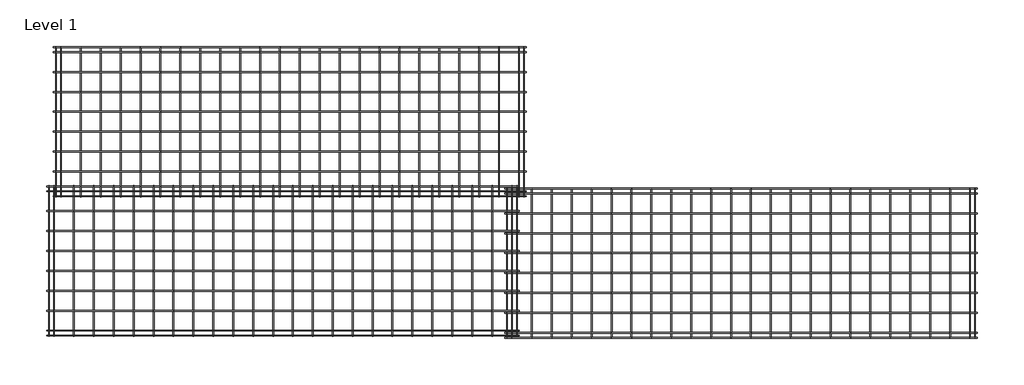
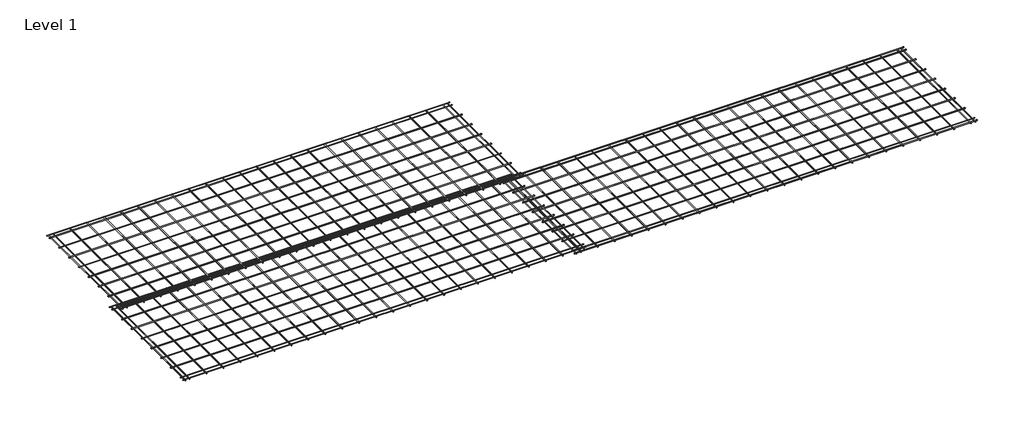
# One storey: 3 proxies.
"""IFC4 building model written with IfcOpenShell, lengths in millimetres."""

from ifc_helpers import new_model, si_unit, origin, place, context, project, spatial, transform, mapped, element, save
from components import united_steel_ductile_se73lde_large_mesh_united_steel_ductile_098b6dc6

model = new_model("IFC4")

# Units and contexts
model_context = context("Model", 3, world=origin())
ifc_project = project(units=[si_unit("LENGTHUNIT", "METRE", prefix="MILLI")], contexts=[model_context])

# Site, building, storey
site = spatial("IfcSite", under=ifc_project)
building = spatial("IfcBuilding", under=site)
storey = spatial("IfcBuildingStorey", under=building, Name="Level 1", Elevation=0.0)

# Proxies
placement = place(None, origin())
united_steel_ductile_se73lde_large_mesh_united_steel_ductile_shape = united_steel_ductile_se73lde_large_mesh_united_steel_ductile_098b6dc6(model_context)
element("IfcBuildingElementProxy", 1, Name="United Steel Ductile SE73LDE Large Mesh : United Steel Ductile SE73LDE Large Mesh", ObjectType="United Steel Ductile SE73LDE Large Mesh : United Steel Ductile SE73LDE Large Mesh", at=placement, inside=storey, context=model_context, shape_type="MappedRepresentation", body=[
    mapped(united_steel_ductile_se73lde_large_mesh_united_steel_ductile_shape, transform((5287.9798501, 1965.2942871, 76.875), x_axis=(1.0, 0.0, 0.0), y_axis=(0.0, 1.0, 0.0), z_axis=(0.0, 0.0, 1.0))),
])
element("IfcBuildingElementProxy", 2, Name="United Steel Ductile SE73LDE Large Mesh : United Steel Ductile SE73LDE Large Mesh", ObjectType="United Steel Ductile SE73LDE Large Mesh : United Steel Ductile SE73LDE Large Mesh", at=placement, inside=storey, context=model_context, shape_type="MappedRepresentation", body=[
    mapped(united_steel_ductile_se73lde_large_mesh_united_steel_ductile_shape, transform((5392.5951922, 4065.2942871, 104.0625), x_axis=(1.0, 0.0, 0.0), y_axis=(0.0, 1.0, 0.0), z_axis=(0.0, 0.0, 1.0))),
])
element("IfcBuildingElementProxy", 3, Name="United Steel Ductile SE73LDE Large Mesh : United Steel Ductile SE73LDE Large Mesh", ObjectType="United Steel Ductile SE73LDE Large Mesh : United Steel Ductile SE73LDE Large Mesh", at=placement, inside=storey, context=model_context, shape_type="MappedRepresentation", body=[
    mapped(united_steel_ductile_se73lde_large_mesh_united_steel_ductile_shape, transform((12187.9798501, 1932.6324308, 49.6875), x_axis=(1.0, 0.0, 0.0), y_axis=(0.0, 1.0, 0.0), z_axis=(0.0, 0.0, 1.0))),
])

save(model, "model.ifc")
